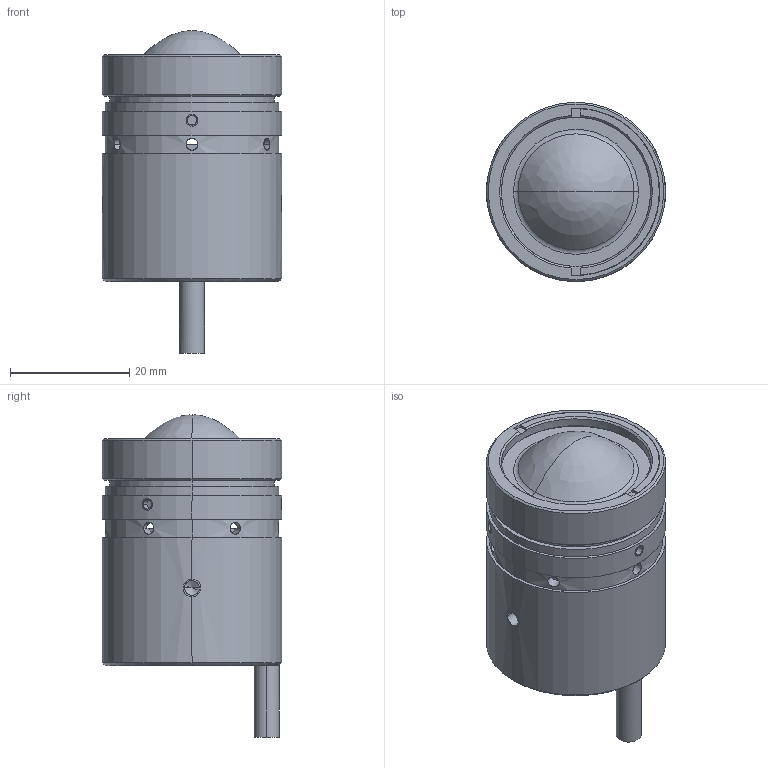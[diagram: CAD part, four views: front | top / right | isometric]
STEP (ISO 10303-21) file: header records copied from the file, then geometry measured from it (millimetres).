
FILE_DESCRIPTION((''),'2;1');
FILE_NAME('ZQ','2021-06-30T',('Administrator'),(''),'PRO/ENGINEER BY PARAMETRIC TECHNOLOGY CORPORATION, 2010100','PRO/ENGINEER BY PARAMETRIC TECHNOLOGY CORPORATION, 2010100','');
FILE_SCHEMA(('CONFIG_CONTROL_DESIGN'));
Length unit declared in the file: millimetre
Products named in the file (1): ZQ
Bounding box: 30 x 30 x 54 mm (x, y, z)
Volume: 17844.9 mm3; surface area: 10845.6 mm2
Topology: 2 solids, 15 shells, 322 faces, 890 edges, 579 vertices
Faces by surface type: cylinder 236, plane 48, cone 34, torus 2, revolution 2
Entity records: 11246 total; most frequent: CARTESIAN_POINT 2497, DIRECTION 1912, ORIENTED_EDGE 1686, EDGE_CURVE 872, AXIS2_PLACEMENT_3D 795, VERTEX_POINT 579, EDGE_LOOP 499, CIRCLE 474
